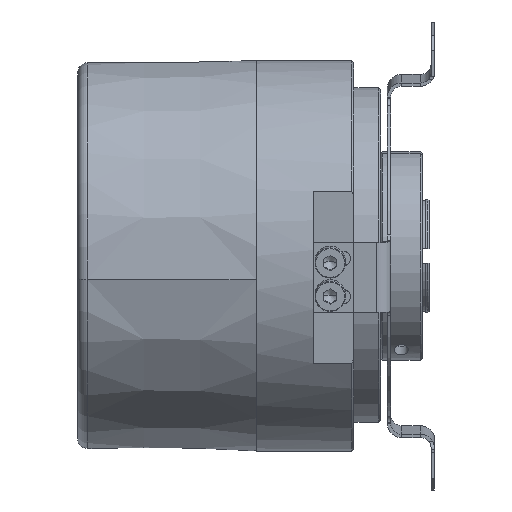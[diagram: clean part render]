
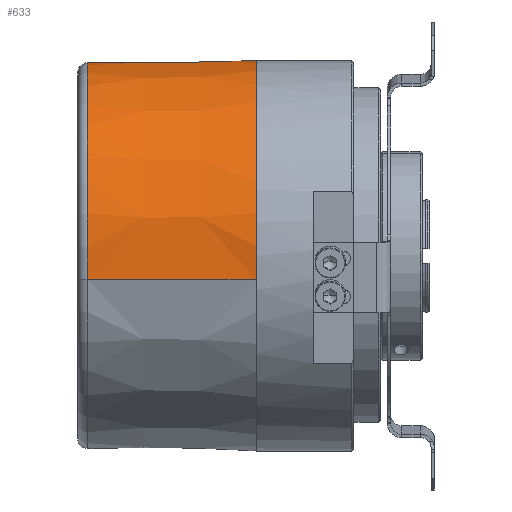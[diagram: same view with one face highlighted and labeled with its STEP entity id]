
A CAD part, front view. The second image highlights one B-rep face of the part: STEP entity #633.
In plain terms, the highlighted conical face has half-angle 0.75 degrees and reference radius 29 mm.
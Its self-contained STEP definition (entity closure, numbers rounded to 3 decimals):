
#421 = CARTESIAN_POINT ( 'NONE',  ( -14.179, 21.982, 18.477 ) ) ;
#633 = ADVANCED_FACE ( 'NONE', ( #4752 ), #15357, .T. ) ;
#866 = CARTESIAN_POINT ( 'NONE',  ( -17.52, -28.459, -3.494 ) ) ;
#1384 = LINE ( 'NONE', #7418, #18485 ) ;
#2256 = CARTESIAN_POINT ( 'NONE',  ( -17.52, 0., 0. ) ) ;
#2898 = CIRCLE ( 'NONE', #8437, 28.672 ) ;
#3828 = VERTEX_POINT ( 'NONE', #10301 ) ;
#3904 = DIRECTION ( 'NONE',  ( 0., 0.993, 0.122 ) ) ;
#4752 = FACE_OUTER_BOUND ( 'NONE', #18585, .T. ) ;
#5324 = CARTESIAN_POINT ( 'NONE',  ( 6.5, 22.343, 18.468 ) ) ;
#5494 = DIRECTION ( 'NONE',  ( -1., 0., 0. ) ) ;
#6160 = CARTESIAN_POINT ( 'NONE',  ( 7.5, 0., 0. ) ) ;
#6954 = CARTESIAN_POINT ( 'NONE',  ( 4.5, 22.308, 18.469 ) ) ;
#7159 = EDGE_CURVE ( 'NONE', #11358, #3828, #1384, .T. ) ;
#7418 = CARTESIAN_POINT ( 'NONE',  ( 7.5, -28.784, -3.534 ) ) ;
#8138 = EDGE_CURVE ( 'NONE', #3828, #11009, #14163, .T. ) ;
#8437 = AXIS2_PLACEMENT_3D ( 'NONE', #2256, #13787, #3904 ) ;
#8623 = CARTESIAN_POINT ( 'NONE',  ( -3.498, 22.169, 18.472 ) ) ;
#9117 = EDGE_CURVE ( 'NONE', #11009, #11609, #21044, .T. ) ;
#9676 = AXIS2_PLACEMENT_3D ( 'NONE', #15429, #5494, #17099 ) ;
#10130 = ORIENTED_EDGE ( 'NONE', *, *, #8138, .T. ) ;
#10281 = CARTESIAN_POINT ( 'NONE',  ( -10.838, 22.04, 18.476 ) ) ;
#10301 = CARTESIAN_POINT ( 'NONE',  ( 7.5, -28.784, -3.534 ) ) ;
#11009 = VERTEX_POINT ( 'NONE', #19615 ) ;
#11358 = VERTEX_POINT ( 'NONE', #866 ) ;
#11609 = VERTEX_POINT ( 'NONE', #21438 ) ;
#11942 = CARTESIAN_POINT ( 'NONE',  ( -17.52, 21.923, 18.479 ) ) ;
#12914 = ORIENTED_EDGE ( 'NONE', *, *, #14107, .T. ) ;
#12942 = ORIENTED_EDGE ( 'NONE', *, *, #7159, .T. ) ;
#13447 = DIRECTION ( 'NONE',  ( 0., -0.993, -0.122 ) ) ;
#13786 = ORIENTED_EDGE ( 'NONE', *, *, #9117, .T. ) ;
#13787 = DIRECTION ( 'NONE',  ( 1., 0., 0. ) ) ;
#14107 = EDGE_CURVE ( 'NONE', #11609, #11358, #2898, .T. ) ;
#14163 = CIRCLE ( 'NONE', #9676, 29. ) ;
#15234 = CARTESIAN_POINT ( 'NONE',  ( 7.5, 22.36, 18.467 ) ) ;
#15357 = CONICAL_SURFACE ( 'NONE', #18754, 29., 0.013 ) ;
#15429 = CARTESIAN_POINT ( 'NONE',  ( 7.5, 0., 0. ) ) ;
#15842 = DIRECTION ( 'NONE',  ( 1., -0.013, -0.002 ) ) ;
#16908 = CARTESIAN_POINT ( 'NONE',  ( 5.5, 22.325, 18.468 ) ) ;
#17099 = DIRECTION ( 'NONE',  ( 0., 0.993, 0.122 ) ) ;
#18485 = VECTOR ( 'NONE', #15842, 1000. ) ;
#18580 = CARTESIAN_POINT ( 'NONE',  ( 0.501, 22.238, 18.47 ) ) ;
#18585 = EDGE_LOOP ( 'NONE', ( #12914, #12942, #10130, #13786 ) ) ;
#18754 = AXIS2_PLACEMENT_3D ( 'NONE', #6160, #19645, #13447 ) ;
#19615 = CARTESIAN_POINT ( 'NONE',  ( 7.5, 22.36, 18.467 ) ) ;
#19645 = DIRECTION ( 'NONE',  ( 1., 0., 0. ) ) ;
#20226 = CARTESIAN_POINT ( 'NONE',  ( -7.498, 22.099, 18.474 ) ) ;
#21044 = B_SPLINE_CURVE_WITH_KNOTS ( 'NONE', 3,
 ( #15234, #5324, #16908, #6954, #18580, #8623, #20226, #10281, #421, #11942 ),
 .UNSPECIFIED., .F., .F.,
 ( 4, 3, 3, 4 ),
 ( 0., 0.003, 0.015, 0.025 ),
 .UNSPECIFIED. ) ;
#21438 = CARTESIAN_POINT ( 'NONE',  ( -17.52, 21.923, 18.479 ) ) ;
